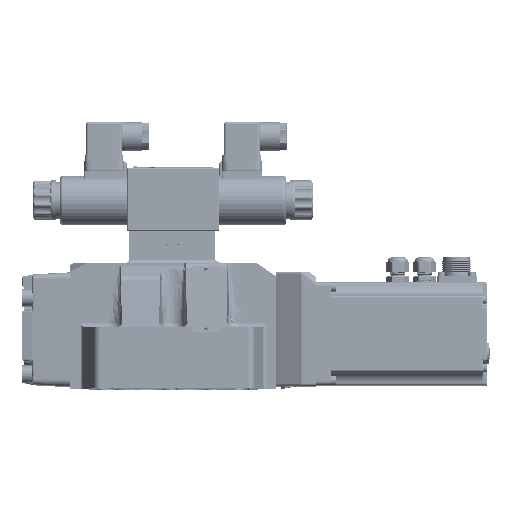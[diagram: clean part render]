
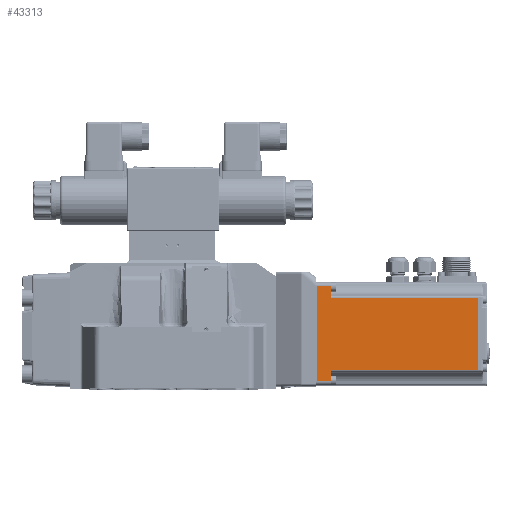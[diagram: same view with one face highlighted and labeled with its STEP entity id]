
A CAD part, top view. The second image highlights one B-rep face of the part: STEP entity #43313.
In plain terms, the highlighted planar face has unit normal (0, 0.009, 1).
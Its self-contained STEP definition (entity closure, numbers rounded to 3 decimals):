
#43313=ADVANCED_FACE('',(#48952),#45840,.F.);
#45840=PLANE('',#110208);
#48952=FACE_OUTER_BOUND('',#53842,.T.);
#53842=EDGE_LOOP('',(#73888,#73889,#73890,#73891,#73892,#73893,#73894,#73895));
#73888=ORIENTED_EDGE('',*,*,#93168,.T.);
#73889=ORIENTED_EDGE('',*,*,#93169,.T.);
#73890=ORIENTED_EDGE('',*,*,#93170,.T.);
#73891=ORIENTED_EDGE('',*,*,#93171,.F.);
#73892=ORIENTED_EDGE('',*,*,#93172,.F.);
#73893=ORIENTED_EDGE('',*,*,#93173,.T.);
#73894=ORIENTED_EDGE('',*,*,#93174,.T.);
#73895=ORIENTED_EDGE('',*,*,#93175,.T.);
#83605=VERTEX_POINT('',#223186);
#83606=VERTEX_POINT('',#223187);
#83607=VERTEX_POINT('',#223189);
#83608=VERTEX_POINT('',#223191);
#83609=VERTEX_POINT('',#223193);
#83610=VERTEX_POINT('',#223195);
#83611=VERTEX_POINT('',#223197);
#83612=VERTEX_POINT('',#223199);
#93168=EDGE_CURVE('',#83605,#83606,#99461,.T.);
#93169=EDGE_CURVE('',#83606,#83607,#99462,.T.);
#93170=EDGE_CURVE('',#83607,#83608,#99463,.T.);
#93171=EDGE_CURVE('',#83609,#83608,#99464,.T.);
#93172=EDGE_CURVE('',#83610,#83609,#99465,.T.);
#93173=EDGE_CURVE('',#83610,#83611,#99466,.T.);
#93174=EDGE_CURVE('',#83611,#83612,#99467,.T.);
#93175=EDGE_CURVE('',#83612,#83605,#99468,.T.);
#99461=LINE('',#223185,#105006);
#99462=LINE('',#223188,#105007);
#99463=LINE('',#223190,#105008);
#99464=LINE('',#223192,#105009);
#99465=LINE('',#223194,#105010);
#99466=LINE('',#223196,#105011);
#99467=LINE('',#223198,#105012);
#99468=LINE('',#223200,#105013);
#105006=VECTOR('',#125984,1.);
#105007=VECTOR('',#125985,1.);
#105008=VECTOR('',#125986,1.);
#105009=VECTOR('',#125987,1.);
#105010=VECTOR('',#125988,1.);
#105011=VECTOR('',#125989,1.);
#105012=VECTOR('',#125990,1.);
#105013=VECTOR('',#125991,1.);
#110208=AXIS2_PLACEMENT_3D('',#223201,#125992,#125993);
#125984=DIRECTION('',(0.,1.,-0.009));
#125985=DIRECTION('',(-1.,0.,0.));
#125986=DIRECTION('',(0.,1.,-0.009));
#125987=DIRECTION('',(1.,0.,0.));
#125988=DIRECTION('',(0.,1.,-0.009));
#125989=DIRECTION('',(1.,0.,0.));
#125990=DIRECTION('',(0.,1.,-0.009));
#125991=DIRECTION('',(1.,0.,0.));
#125992=DIRECTION('',(0.,-0.009,-1.));
#125993=DIRECTION('',(0.,-1.,0.009));
#223185=CARTESIAN_POINT('',(234.89,81.514,122.908));
#223186=CARTESIAN_POINT('',(234.89,19.006,123.454));
#223187=CARTESIAN_POINT('',(234.89,73.025,122.982));
#223188=CARTESIAN_POINT('',(124.89,73.025,122.982));
#223189=CARTESIAN_POINT('',(124.89,73.025,122.982));
#223190=CARTESIAN_POINT('',(124.89,81.514,122.908));
#223191=CARTESIAN_POINT('',(124.89,81.514,122.908));
#223192=CARTESIAN_POINT('',(114.89,81.514,122.908));
#223193=CARTESIAN_POINT('',(114.89,81.514,122.908));
#223194=CARTESIAN_POINT('',(114.89,81.514,122.908));
#223195=CARTESIAN_POINT('',(114.89,10.517,123.528));
#223196=CARTESIAN_POINT('',(114.89,10.517,123.528));
#223197=CARTESIAN_POINT('',(124.89,10.517,123.528));
#223198=CARTESIAN_POINT('',(124.89,81.514,122.908));
#223199=CARTESIAN_POINT('',(124.89,19.006,123.454));
#223200=CARTESIAN_POINT('',(114.89,19.006,123.454));
#223201=CARTESIAN_POINT('',(114.89,81.514,122.908));
